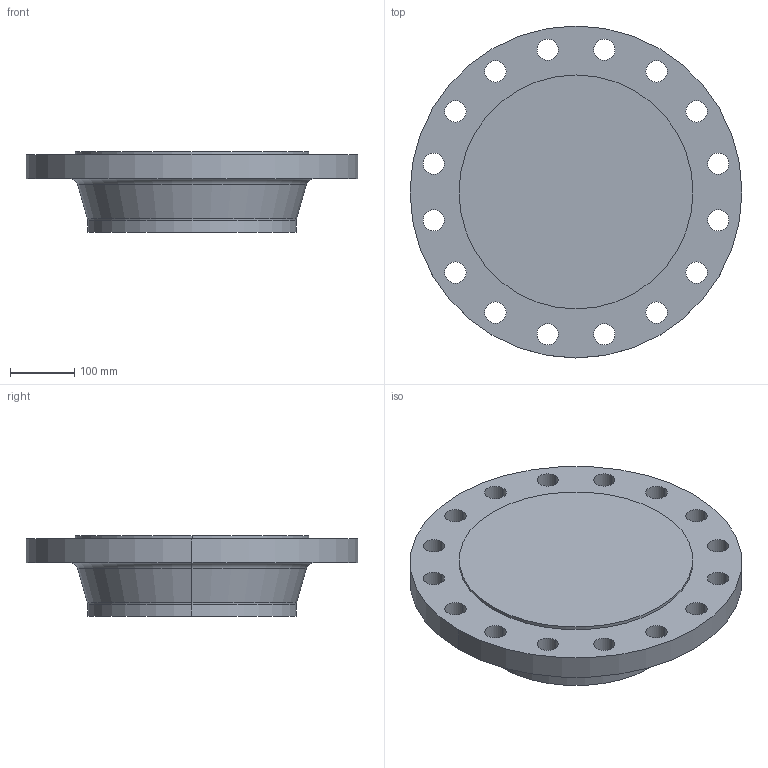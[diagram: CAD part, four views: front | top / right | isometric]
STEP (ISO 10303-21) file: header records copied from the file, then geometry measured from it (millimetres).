
FILE_DESCRIPTION (( 'STEP AP214' ), '1' );
FILE_NAME ('PN40 DN300 Type 21(ii) - Type E Face.STEP', '2019-01-05T18:58:59', ( '' ), ( '' ), 'SwSTEP 2.0', 'SolidWorks 2019', '' );
FILE_SCHEMA (( 'AUTOMOTIVE_DESIGN' ));
Length unit declared in the file: millimetre
Products named in the file (1): PN40 DN300 Type 21(ii) - Type E Face
Bounding box: 515 x 515 x 125 mm (x, y, z)
Volume: 15176254.9 mm3; surface area: 584667.9 mm2
Topology: 1 solids, 1 shells, 48 faces, 126 edges, 82 vertices
Faces by surface type: cylinder 38, torus 4, plane 4, cone 2
Entity records: 1626 total; most frequent: DIRECTION 310, CARTESIAN_POINT 257, ORIENTED_EDGE 252, AXIS2_PLACEMENT_3D 135, EDGE_CURVE 126, CIRCLE 86, EDGE_LOOP 82, VERTEX_POINT 82
